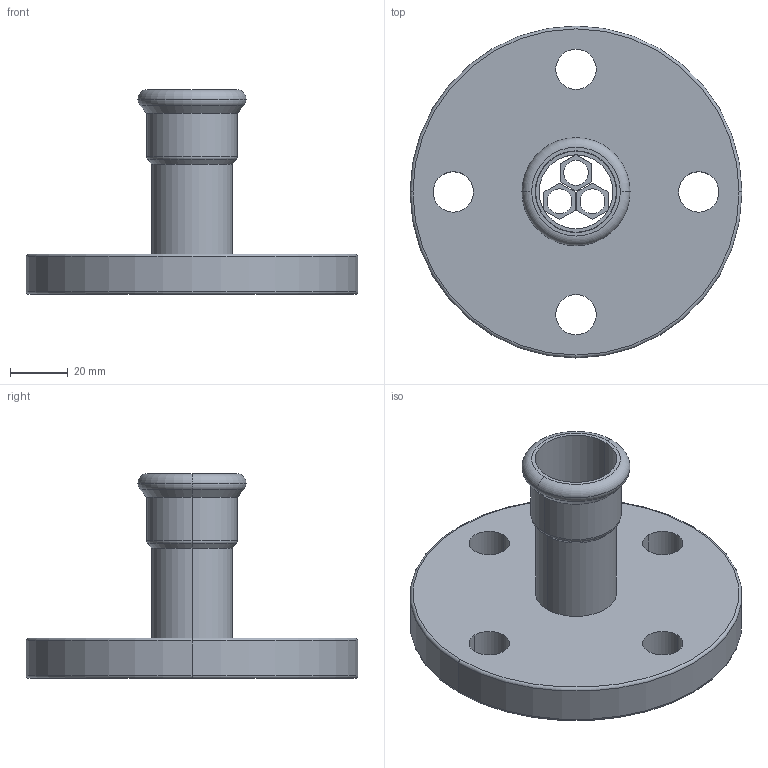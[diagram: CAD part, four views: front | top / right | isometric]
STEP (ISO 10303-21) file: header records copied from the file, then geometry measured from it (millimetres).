
FILE_DESCRIPTION(('OneSpaceDesigner STEP Export'),'2;1');
FILE_NAME('R2726 28.stp','2010-06-10T13:09:42',(''),(''),'OneSpace Designer STEP processor for AP214 (Solid Model)','OneSpace Modeling 15.00A 14-Mar-2007 (C) CoCreate Software GmbH','');
FILE_SCHEMA(('AUTOMOTIVE_DESIGN { 1 0 10303 214 1 1 1 1 }'));
Length unit declared in the file: millimetre
Products named in the file (2): R2726_28
Assembly tree (1 placements, depth 2):
  R2726_28
    R2726_28
Bounding box: 115 x 115 x 71 mm (x, y, z)
Volume: 137078 mm3; surface area: 38400.7 mm2
Topology: 2 solids, 2 shells, 78 faces, 189 edges, 120 vertices
Faces by surface type: plane 33, cylinder 31, torus 10, cone 4
Entity records: 2068 total; most frequent: ORIENTED_EDGE 382, CARTESIAN_POINT 327, DIRECTION 313, EDGE_CURVE 189, VERTEX_POINT 120, AXIS2_PLACEMENT_3D 106, EDGE_LOOP 101, VECTOR 101
